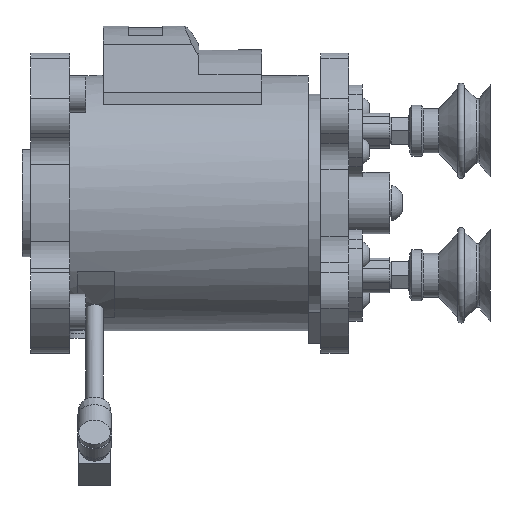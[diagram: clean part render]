
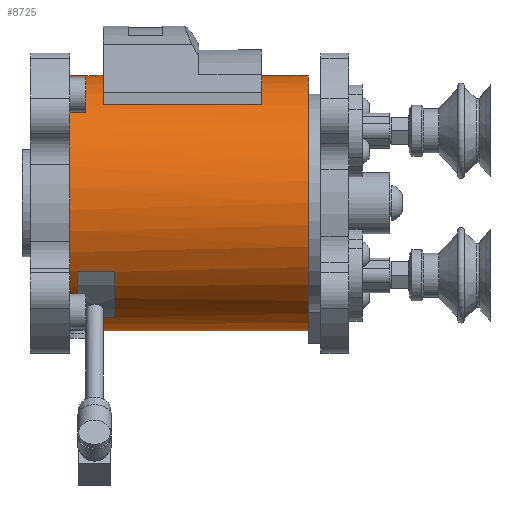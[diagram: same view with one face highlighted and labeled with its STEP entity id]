
A CAD part, left-side view. The second image highlights one B-rep face of the part: STEP entity #8725.
In plain terms, the highlighted cylindrical face has radius 37.5 mm (diameter 75 mm), a full revolution.
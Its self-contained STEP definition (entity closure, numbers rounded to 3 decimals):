
#152=CYLINDRICAL_SURFACE('',#9561,37.5);
#341=CIRCLE('',#9562,37.5);
#342=CIRCLE('',#9563,37.5);
#343=CIRCLE('',#9564,37.5);
#344=CIRCLE('',#9565,37.5);
#345=CIRCLE('',#9566,37.5);
#346=CIRCLE('',#9567,37.5);
#347=CIRCLE('',#9568,37.5);
#348=CIRCLE('',#9569,37.5);
#349=CIRCLE('',#9570,37.5);
#828=ORIENTED_EDGE('',*,*,#3250,.F.);
#829=ORIENTED_EDGE('',*,*,#3251,.F.);
#830=ORIENTED_EDGE('',*,*,#3252,.T.);
#831=ORIENTED_EDGE('',*,*,#3253,.T.);
#832=ORIENTED_EDGE('',*,*,#3254,.F.);
#833=ORIENTED_EDGE('',*,*,#3255,.T.);
#834=ORIENTED_EDGE('',*,*,#3256,.T.);
#835=ORIENTED_EDGE('',*,*,#3257,.T.);
#836=ORIENTED_EDGE('',*,*,#3258,.T.);
#837=ORIENTED_EDGE('',*,*,#3259,.F.);
#838=ORIENTED_EDGE('',*,*,#3260,.T.);
#839=ORIENTED_EDGE('',*,*,#3228,.F.);
#840=ORIENTED_EDGE('',*,*,#3261,.T.);
#841=ORIENTED_EDGE('',*,*,#3262,.T.);
#842=ORIENTED_EDGE('',*,*,#3263,.F.);
#843=ORIENTED_EDGE('',*,*,#3232,.F.);
#844=ORIENTED_EDGE('',*,*,#3264,.F.);
#3228=EDGE_CURVE('',#4440,#4441,#5300,.T.);
#3232=EDGE_CURVE('',#4444,#4445,#5304,.T.);
#3250=EDGE_CURVE('',#4458,#4458,#341,.T.);
#3251=EDGE_CURVE('',#4459,#4460,#5318,.T.);
#3252=EDGE_CURVE('',#4459,#4461,#342,.T.);
#3253=EDGE_CURVE('',#4461,#4462,#5319,.T.);
#3254=EDGE_CURVE('',#4460,#4462,#343,.T.);
#3255=EDGE_CURVE('',#4463,#4464,#344,.T.);
#3256=EDGE_CURVE('',#4464,#4465,#5320,.F.);
#3257=EDGE_CURVE('',#4465,#4466,#345,.T.);
#3258=EDGE_CURVE('',#4466,#4463,#5321,.T.);
#3259=EDGE_CURVE('',#4467,#4468,#5322,.T.);
#3260=EDGE_CURVE('',#4467,#4441,#346,.T.);
#3261=EDGE_CURVE('',#4440,#4469,#347,.T.);
#3262=EDGE_CURVE('',#4469,#4470,#5323,.T.);
#3263=EDGE_CURVE('',#4445,#4470,#348,.T.);
#3264=EDGE_CURVE('',#4468,#4444,#349,.T.);
#4440=VERTEX_POINT('',#13456);
#4441=VERTEX_POINT('',#13457);
#4444=VERTEX_POINT('',#13463);
#4445=VERTEX_POINT('',#13465);
#4458=VERTEX_POINT('',#13499);
#4459=VERTEX_POINT('',#13501);
#4460=VERTEX_POINT('',#13502);
#4461=VERTEX_POINT('',#13504);
#4462=VERTEX_POINT('',#13506);
#4463=VERTEX_POINT('',#13509);
#4464=VERTEX_POINT('',#13510);
#4465=VERTEX_POINT('',#13512);
#4466=VERTEX_POINT('',#13514);
#4467=VERTEX_POINT('',#13517);
#4468=VERTEX_POINT('',#13518);
#4469=VERTEX_POINT('',#13521);
#4470=VERTEX_POINT('',#13523);
#5300=LINE('',#13455,#6053);
#5304=LINE('',#13464,#6057);
#5318=LINE('',#13500,#6071);
#5319=LINE('',#13505,#6072);
#5320=LINE('',#13511,#6073);
#5321=LINE('',#13515,#6074);
#5322=LINE('',#13516,#6075);
#5323=LINE('',#13522,#6076);
#6053=VECTOR('',#10612,1000.);
#6057=VECTOR('',#10616,1000.);
#6071=VECTOR('',#10646,1000.);
#6072=VECTOR('',#10649,1000.);
#6073=VECTOR('',#10654,1000.);
#6074=VECTOR('',#10657,1000.);
#6075=VECTOR('',#10658,1000.);
#6076=VECTOR('',#10663,1000.);
#6808=EDGE_LOOP('',(#828));
#6809=EDGE_LOOP('',(#829,#830,#831,#832));
#6810=EDGE_LOOP('',(#833,#834,#835,#836));
#6811=EDGE_LOOP('',(#837,#838,#839,#840,#841,#842,#843,#844));
#7597=FACE_BOUND('',#6808,.T.);
#7598=FACE_BOUND('',#6809,.T.);
#7599=FACE_BOUND('',#6810,.T.);
#7600=FACE_BOUND('',#6811,.T.);
#8725=ADVANCED_FACE('',(#7597,#7598,#7599,#7600),#152,.T.);
#9561=AXIS2_PLACEMENT_3D('',#13497,#10642,#10643);
#9562=AXIS2_PLACEMENT_3D('',#13498,#10644,#10645);
#9563=AXIS2_PLACEMENT_3D('',#13503,#10647,#10648);
#9564=AXIS2_PLACEMENT_3D('',#13507,#10650,#10651);
#9565=AXIS2_PLACEMENT_3D('',#13508,#10652,#10653);
#9566=AXIS2_PLACEMENT_3D('',#13513,#10655,#10656);
#9567=AXIS2_PLACEMENT_3D('',#13519,#10659,#10660);
#9568=AXIS2_PLACEMENT_3D('',#13520,#10661,#10662);
#9569=AXIS2_PLACEMENT_3D('',#13524,#10664,#10665);
#9570=AXIS2_PLACEMENT_3D('',#13525,#10666,#10667);
#10612=DIRECTION('',(0.,0.,-1.));
#10616=DIRECTION('',(0.,0.,-1.));
#10642=DIRECTION('',(0.,0.,1.));
#10643=DIRECTION('',(1.,0.,0.));
#10644=DIRECTION('',(0.,0.,1.));
#10645=DIRECTION('',(1.,0.,0.));
#10646=DIRECTION('',(0.,0.,-1.));
#10647=DIRECTION('',(0.,0.,1.));
#10648=DIRECTION('',(1.,0.,0.));
#10649=DIRECTION('',(0.,0.,-1.));
#10650=DIRECTION('',(0.,0.,1.));
#10651=DIRECTION('',(1.,0.,0.));
#10652=DIRECTION('',(0.,0.,1.));
#10653=DIRECTION('',(1.,0.,0.));
#10654=DIRECTION('',(0.,0.,1.));
#10655=DIRECTION('',(0.,0.,1.));
#10656=DIRECTION('',(1.,0.,0.));
#10657=DIRECTION('',(0.,0.,1.));
#10658=DIRECTION('',(0.,0.,-1.));
#10659=DIRECTION('',(0.,0.,1.));
#10660=DIRECTION('',(1.,0.,0.));
#10661=DIRECTION('',(0.,0.,1.));
#10662=DIRECTION('',(1.,0.,0.));
#10663=DIRECTION('',(0.,0.,-1.));
#10664=DIRECTION('',(0.,0.,1.));
#10665=DIRECTION('',(1.,0.,0.));
#10666=DIRECTION('',(0.,0.,1.));
#10667=DIRECTION('',(1.,0.,0.));
#13455=CARTESIAN_POINT('',(-33.461,16.93,49.39));
#13456=CARTESIAN_POINT('',(-33.461,16.93,67.85));
#13457=CARTESIAN_POINT('',(-33.461,16.93,50.85));
#13463=CARTESIAN_POINT('',(-33.461,16.93,38.35));
#13464=CARTESIAN_POINT('',(-33.461,16.93,49.39));
#13465=CARTESIAN_POINT('',(-33.461,16.93,21.35));
#13497=CARTESIAN_POINT('',(0.,0.,81.5));
#13498=CARTESIAN_POINT('',(0.,0.,81.5));
#13499=CARTESIAN_POINT('',(37.5,0.,81.5));
#13500=CARTESIAN_POINT('',(20.2,-31.594,24.8));
#13501=CARTESIAN_POINT('',(20.2,-31.594,24.8));
#13502=CARTESIAN_POINT('',(20.2,-31.594,13.8));
#13503=CARTESIAN_POINT('',(0.,0.,
24.8));
#13504=CARTESIAN_POINT('',(33.58,-16.692,24.8));
#13505=CARTESIAN_POINT('',(33.58,-16.692,24.8));
#13506=CARTESIAN_POINT('',(33.58,-16.692,13.8));
#13507=CARTESIAN_POINT('',(0.,0.,
13.8));
#13508=CARTESIAN_POINT('',(0.,0.,19.27));
#13509=CARTESIAN_POINT('',(37.064,-5.7,19.27));
#13510=CARTESIAN_POINT('',(37.064,5.7,19.27));
#13511=CARTESIAN_POINT('',(37.064,5.7,81.5));
#13512=CARTESIAN_POINT('',(37.064,5.7,11.5));
#13513=CARTESIAN_POINT('',(0.,0.,11.5));
#13514=CARTESIAN_POINT('',(37.064,-5.7,11.5));
#13515=CARTESIAN_POINT('',(37.064,-5.7,81.5));
#13516=CARTESIAN_POINT('',(-26.917,26.11,50.85));
#13517=CARTESIAN_POINT('',(-26.917,26.11,50.85));
#13518=CARTESIAN_POINT('',(-26.917,26.11,38.35));
#13519=CARTESIAN_POINT('',(0.,0.,50.85));
#13520=CARTESIAN_POINT('',(0.,0.,
67.85));
#13521=CARTESIAN_POINT('',(-28.839,-23.97,67.85));
#13522=CARTESIAN_POINT('',(-28.839,-23.97,49.39));
#13523=CARTESIAN_POINT('',(-28.839,-23.97,21.35));
#13524=CARTESIAN_POINT('',(0.,0.,
21.35));
#13525=CARTESIAN_POINT('',(0.,0.,38.35));
